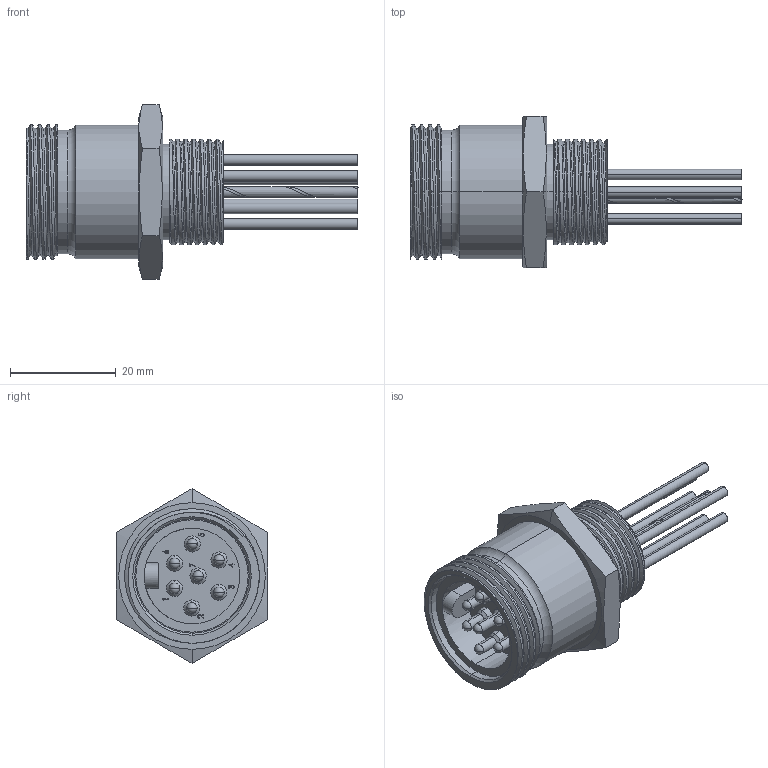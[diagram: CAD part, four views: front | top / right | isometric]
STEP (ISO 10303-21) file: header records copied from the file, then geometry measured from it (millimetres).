
FILE_DESCRIPTION (( 'STEP AP214' ), '1' );
FILE_NAME ('MIN-7MR2-ZZ-18.STEP', '2011-03-19T23:07:06', ( 'Bruce' ), ( 'HP' ), 'SwSTEP 2.0', 'SolidWorks 2011', '' );
FILE_SCHEMA (( 'AUTOMOTIVE_DESIGN' ));
Length unit declared in the file: millimetre
Products named in the file (1): MIN-7MR2-ZZ-18
Bounding box: 62.66 x 28.57 x 33 mm (x, y, z)
Volume: 15423.3 mm3; surface area: 7592 mm2
Topology: 1 solids, 1 shells, 243 faces, 615 edges, 390 vertices
Faces by surface type: cylinder 84, plane 78, bspline 45, cone 20, sphere 14, torus 2
Entity records: 18910 total; most frequent: CARTESIAN_POINT 10871, ORIENTED_EDGE 1202, DIRECTION 989, EDGE_CURVE 601, VERTEX_POINT 390, AXIS2_PLACEMENT_3D 353, LINE 283, VECTOR 283
